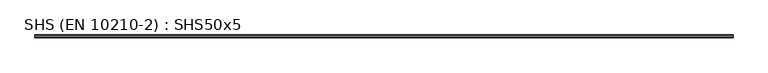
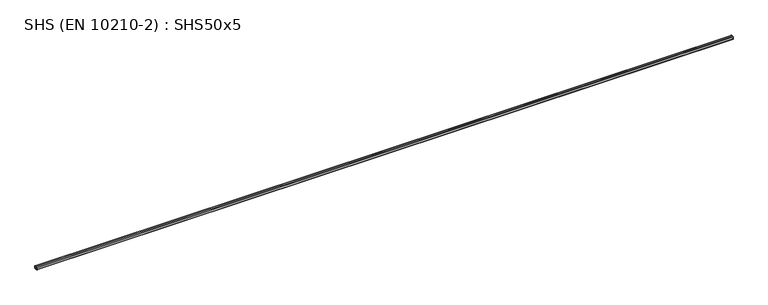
"""IFC4 building model written with IfcOpenShell, lengths in millimetres: beam geometry, SHS (EN 10210-2) : SHS50x5."""

from ifc_helpers import new_model, si_unit, point, frame, frame_2d, origin, place, context, project, spatial, polyline, circle_curve, trimmed, segment, composite_curve, outline, extrude, source, transform, mapped, element, save


def shs_en_10210_2_shs50x5_dd95755e(model_context):
    return source(origin(), model_context, "Body", "SweptSolid", [
        extrude(outline(composite_curve([segment(polyline([(25.0, 17.5), (25.0, -17.5)]), True, "CONTINUOUS"), segment(trimmed(circle_curve(frame_2d((17.5, -17.5)), 7.5), [point((25.0, -17.5))], [point((17.5, -25.0))], False, "CARTESIAN"), True, "CONTINUOUS"), segment(polyline([(17.5, -25.0), (-17.5, -25.0)]), True, "CONTINUOUS"), segment(trimmed(circle_curve(frame_2d((-17.5, -17.5)), 7.5), [point((-17.5, -25.0))], [point((-25.0, -17.5))], False, "CARTESIAN"), True, "CONTINUOUS"), segment(polyline([(-25.0, -17.5), (-25.0, 17.5)]), True, "CONTINUOUS"), segment(trimmed(circle_curve(frame_2d((-17.5, 17.5)), 7.5), [point((-25.0, 17.5))], [point((-17.5, 25.0))], False, "CARTESIAN"), True, "CONTINUOUS"), segment(polyline([(-17.5, 25.0), (17.5, 25.0)]), True, "CONTINUOUS"), segment(trimmed(circle_curve(frame_2d((17.5, 17.5)), 7.5), [point((17.5, 25.0))], [point((25.0, 17.5))], False, "CARTESIAN"), True, "CONTINUOUS")], self_intersect=False), holes=[composite_curve([segment(trimmed(circle_curve(frame_2d((-15.0, 15.0)), 5.0), [point((-15.0, 20.0))], [point((-20.0, 15.0))], True, "CARTESIAN"), True, "CONTINUOUS"), segment(polyline([(-20.0, 15.0), (-20.0, -15.0)]), True, "CONTINUOUS"), segment(trimmed(circle_curve(frame_2d((-15.0, -15.0)), 5.0), [point((-20.0, -15.0))], [point((-15.0, -20.0))], True, "CARTESIAN"), True, "CONTINUOUS"), segment(polyline([(-15.0, -20.0), (15.0, -20.0)]), True, "CONTINUOUS"), segment(trimmed(circle_curve(frame_2d((15.0, -15.0)), 5.0), [point((15.0, -20.0))], [point((20.0, -15.0))], True, "CARTESIAN"), True, "CONTINUOUS"), segment(polyline([(20.0, -15.0), (20.0, 15.0)]), True, "CONTINUOUS"), segment(trimmed(circle_curve(frame_2d((15.0, 15.0)), 5.0), [point((20.0, 15.0))], [point((15.0, 20.0))], True, "CARTESIAN"), True, "CONTINUOUS"), segment(polyline([(15.0, 20.0), (-15.0, 20.0)]), True, "CONTINUOUS")], self_intersect=False)]), frame((-6017.4, 0.0, 0.0), z_axis=(1.0, 0.0, 0.0), x_axis=(0.0, 1.0, 0.0)), (0.0, 0.0, 1.0), 12043.0),
    ])


if __name__ == "__main__":
    model = new_model("IFC4")
    model_context = context("Model", 3, world=origin())
    ifc_project = project(units=[si_unit("LENGTHUNIT", "METRE", prefix="MILLI")], contexts=[model_context])
    site = spatial("IfcSite", under=ifc_project)
    building = spatial("IfcBuilding", under=site)
    placement = place(None, origin())
    shs_en_10210_2_shs50x5_shape = shs_en_10210_2_shs50x5_dd95755e(model_context)
    element("IfcBeam", 1, ObjectType="SHS (EN 10210-2) : SHS50x5", at=placement, inside=building, context=model_context, shape_type="MappedRepresentation", body=[
        mapped(shs_en_10210_2_shs50x5_shape, transform((0.0, 0.0, 0.0), x_axis=(1.0, 0.0, 0.0), y_axis=(0.0, 1.0, 0.0), z_axis=(0.0, 0.0, 1.0))),
    ])
    save(model, "model.ifc")
